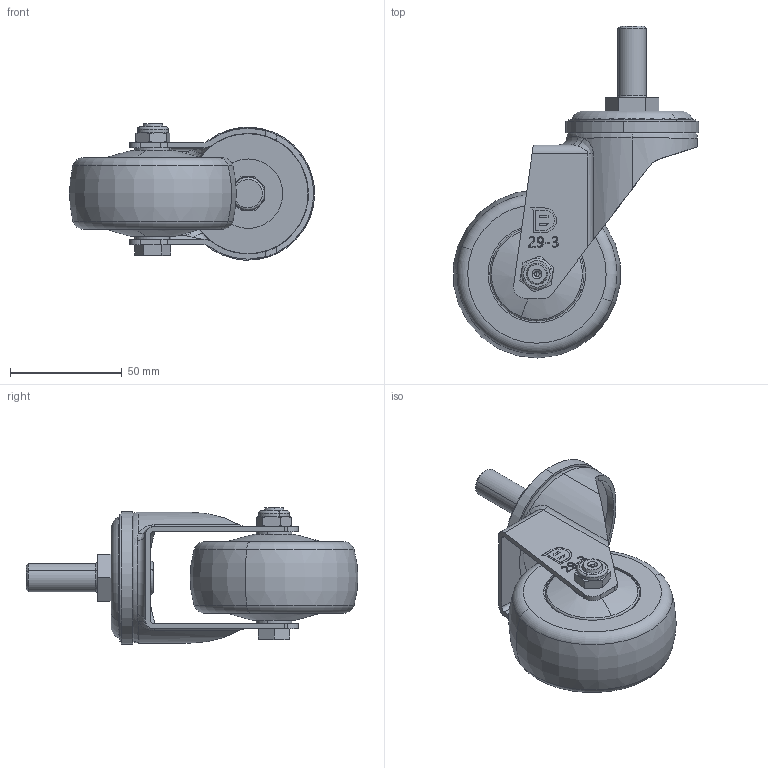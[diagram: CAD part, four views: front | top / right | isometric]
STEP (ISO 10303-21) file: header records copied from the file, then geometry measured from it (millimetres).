
FILE_DESCRIPTION (( 'STEP AP203' ), '1' );
FILE_NAME ('4112903002016-7.STEP', '2025-01-02T07:38:27', ( '' ), ( '' ), 'SwSTEP 2.0', 'SolidWorks 2019', '' );
FILE_SCHEMA (( 'CONFIG_CONTROL_DESIGN' ));
Length unit declared in the file: millimetre
Products named in the file (9): 245042402001 墊圈-電鍍 23x15.2x2.3t_084048; 上珠碗; 245020900003 尼龍螺帽  3 8''''(對邊14x7L); 242020954001 4''''.5''''儀器.高級活動用車心 20240124A8; 4112903002016-7; 22.4201123205-4''''5''''儀器輪用牙心(4分牙); 246040000017 29系列上珠碗防塵圈3''''.4''''.5''''共用; 輪; 29系列活動絲扣3吋展示用腳架
Assembly tree (8 placements, depth 2):
  4112903002016-7
    29系列活動絲扣3吋展示用腳架
    上珠碗
    245020900003 尼龍螺帽  3 8''''(對邊14x7L)
    246040000017 29系列上珠碗防塵圈3''''.4''''.5''''共用
    22.4201123205-4''''5''''儀器輪用牙心(4分牙)
    245042402001 墊圈-電鍍 23x15.2x2.3t_084048
    242020954001 4''''.5''''儀器.高級活動用車心 20240124A8
    輪
Bounding box: 109.49 x 148.3 x 60.91 mm (x, y, z)
Volume: 192154.1 mm3; surface area: 56168.6 mm2
Topology: 8 solids, 10 shells, 301 faces, 729 edges, 469 vertices
Faces by surface type: plane 112, cylinder 87, bspline 40, torus 26, cone 26, sphere 10
Entity records: 12086 total; most frequent: CARTESIAN_POINT 4202, ORIENTED_EDGE 1458, DIRECTION 1411, EDGE_CURVE 729, AXIS2_PLACEMENT_3D 542, VERTEX_POINT 469, EDGE_LOOP 344, LINE 327
